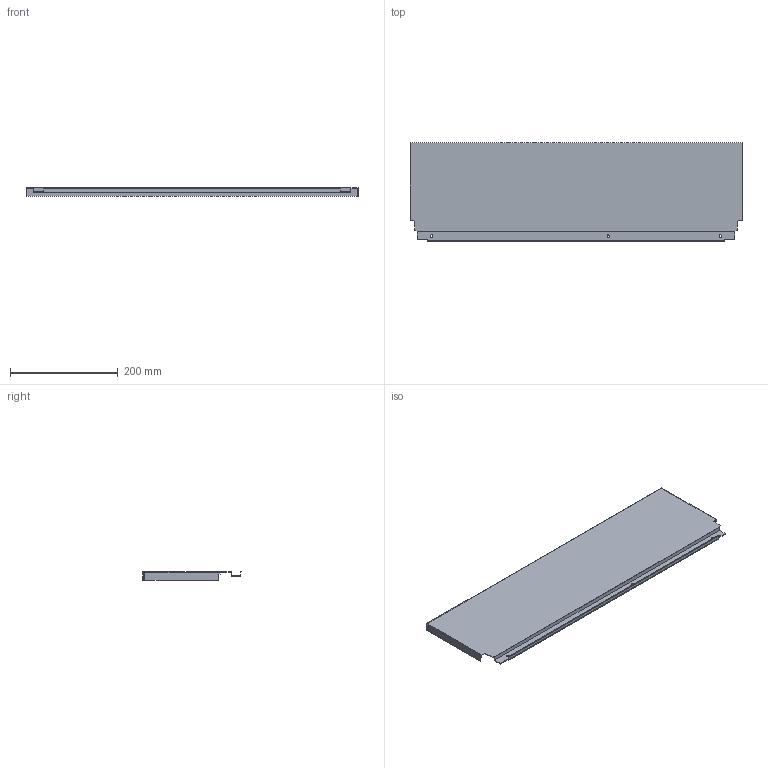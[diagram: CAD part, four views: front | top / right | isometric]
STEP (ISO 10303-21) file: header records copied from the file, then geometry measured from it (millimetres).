
FILE_DESCRIPTION (( 'STEP AP214' ), '1' );
FILE_NAME ('_DWD_XP Stahlrückwand_H182_KAB700_S17.step', '2010-07-08T12:57:46', ( 'grass' ), ( '' ), 'SwSTEP 2.0', 'SolidWorks 2010', '' );
FILE_SCHEMA (( 'AUTOMOTIVE_DESIGN' ));
Length unit declared in the file: millimetre
Products named in the file (1): _DWD_XP Stahlrückwand_H182_KAB700_S17
Bounding box: 615 x 182.49 x 16 mm (x, y, z)
Volume: 115745 mm3; surface area: 268179.9 mm2
Topology: 1 solids, 1 shells, 46 faces, 132 edges, 88 vertices
Faces by surface type: plane 40, cylinder 6
Entity records: 1534 total; most frequent: CARTESIAN_POINT 267, ORIENTED_EDGE 264, DIRECTION 238, EDGE_CURVE 132, LINE 120, VECTOR 120, VERTEX_POINT 88, AXIS2_PLACEMENT_3D 59
